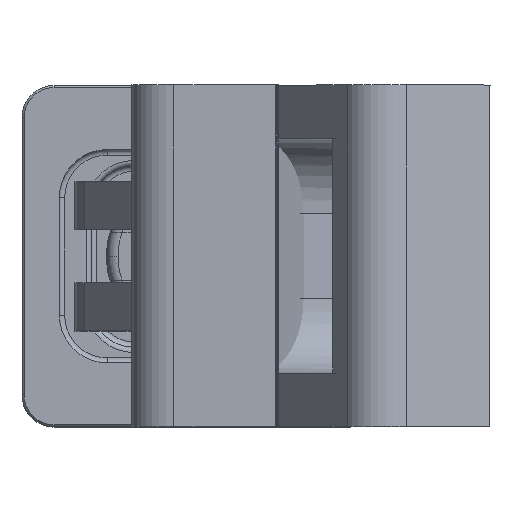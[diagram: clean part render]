
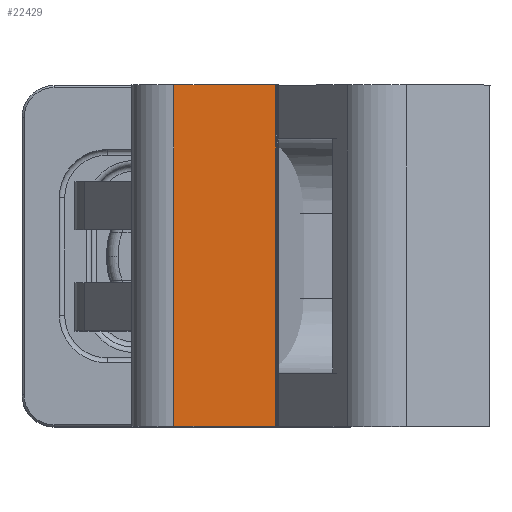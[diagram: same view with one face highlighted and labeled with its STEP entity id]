
A CAD part, top view. The second image highlights one B-rep face of the part: STEP entity #22429.
In plain terms, the highlighted planar face has unit normal (0, 0, 1).
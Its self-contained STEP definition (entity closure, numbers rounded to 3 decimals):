
#1806 = CARTESIAN_POINT ( 'NONE',  ( -17.224, -85.15, -62.025 ) ) ;
#2047 = LINE ( 'NONE', #10605, #11884 ) ;
#2306 = VECTOR ( 'NONE', #8363, 1000. ) ;
#3008 = EDGE_CURVE ( 'NONE', #23641, #24906, #9813, .T. ) ;
#3886 = ORIENTED_EDGE ( 'NONE', *, *, #16048, .T. ) ;
#4549 = EDGE_CURVE ( 'NONE', #11069, #22933, #22648, .T. ) ;
#6111 = DIRECTION ( 'NONE',  ( 0., -1., 0. ) ) ;
#6372 = CARTESIAN_POINT ( 'NONE',  ( -26.776, -117.15, -62.025 ) ) ;
#6423 = CARTESIAN_POINT ( 'NONE',  ( -26.776, -117.15, -62.025 ) ) ;
#8363 = DIRECTION ( 'NONE',  ( 1., 0., 0. ) ) ;
#8391 = VECTOR ( 'NONE', #6111, 1000. ) ;
#8533 = DIRECTION ( 'NONE',  ( 0., -1., 0. ) ) ;
#8954 = DIRECTION ( 'NONE',  ( 0., 0., -1. ) ) ;
#9168 = VECTOR ( 'NONE', #24674, 1000. ) ;
#9813 = LINE ( 'NONE', #12853, #9168 ) ;
#9977 = FACE_OUTER_BOUND ( 'NONE', #13032, .T. ) ;
#10174 = AXIS2_PLACEMENT_3D ( 'NONE', #20802, #8954, #22783 ) ;
#10580 = CARTESIAN_POINT ( 'NONE',  ( -26.776, -85.15, -62.025 ) ) ;
#10605 = CARTESIAN_POINT ( 'NONE',  ( -17.224, -86.15, -62.025 ) ) ;
#11069 = VERTEX_POINT ( 'NONE', #6372 ) ;
#11884 = VECTOR ( 'NONE', #8533, 1000. ) ;
#12396 = EDGE_CURVE ( 'NONE', #24906, #22933, #2047, .T. ) ;
#12733 = PLANE ( 'NONE',  #10174 ) ;
#12853 = CARTESIAN_POINT ( 'NONE',  ( -26.776, -85.15, -62.025 ) ) ;
#13032 = EDGE_LOOP ( 'NONE', ( #13422, #24784, #3886, #18599 ) ) ;
#13422 = ORIENTED_EDGE ( 'NONE', *, *, #12396, .F. ) ;
#16048 = EDGE_CURVE ( 'NONE', #23641, #11069, #18248, .T. ) ;
#18248 = LINE ( 'NONE', #21757, #8391 ) ;
#18599 = ORIENTED_EDGE ( 'NONE', *, *, #4549, .T. ) ;
#19919 = CARTESIAN_POINT ( 'NONE',  ( -17.224, -117.15, -62.025 ) ) ;
#20802 = CARTESIAN_POINT ( 'NONE',  ( -26.776, -86.15, -62.025 ) ) ;
#21757 = CARTESIAN_POINT ( 'NONE',  ( -26.776, -86.15, -62.025 ) ) ;
#22429 = ADVANCED_FACE ( 'NONE', ( #9977 ), #12733, .F. ) ;
#22648 = LINE ( 'NONE', #6423, #2306 ) ;
#22783 = DIRECTION ( 'NONE',  ( -1., 0., 0. ) ) ;
#22933 = VERTEX_POINT ( 'NONE', #19919 ) ;
#23641 = VERTEX_POINT ( 'NONE', #10580 ) ;
#24674 = DIRECTION ( 'NONE',  ( 1., 0., 0. ) ) ;
#24784 = ORIENTED_EDGE ( 'NONE', *, *, #3008, .F. ) ;
#24906 = VERTEX_POINT ( 'NONE', #1806 ) ;
